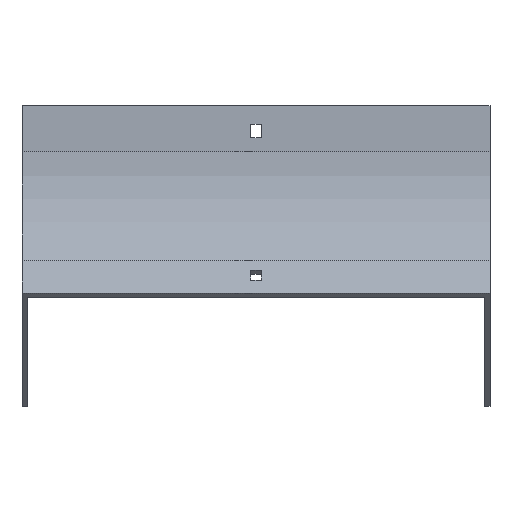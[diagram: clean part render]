
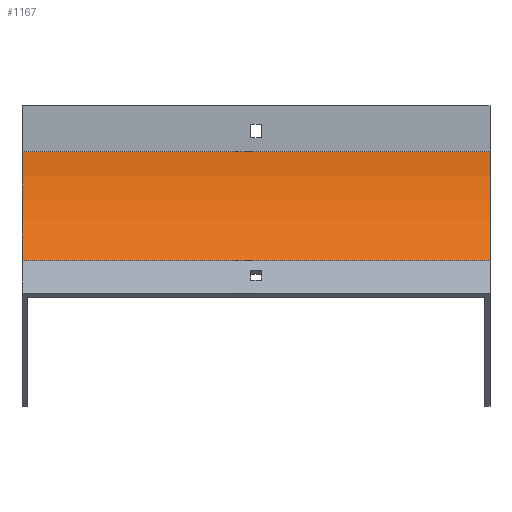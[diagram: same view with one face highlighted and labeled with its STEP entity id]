
A CAD part, front view. The second image highlights one B-rep face of the part: STEP entity #1167.
In plain terms, the highlighted cylindrical face has radius 100 mm (diameter 200 mm), a partial arc.
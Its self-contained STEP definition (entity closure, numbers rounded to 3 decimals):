
#28 = AXIS2_PLACEMENT_3D ( 'NONE', #516, #367, #1574 ) ;
#120 = LINE ( 'NONE', #721, #1086 ) ;
#227 = CARTESIAN_POINT ( 'NONE',  ( 152., -29.289, -100.711 ) ) ;
#357 = AXIS2_PLACEMENT_3D ( 'NONE', #1378, #1690, #1564 ) ;
#367 = DIRECTION ( 'NONE',  ( -1., 0., 0. ) ) ;
#435 = DIRECTION ( 'NONE',  ( -1., 0., 0. ) ) ;
#516 = CARTESIAN_POINT ( 'NONE',  ( 152., -100., -30. ) ) ;
#610 = FACE_OUTER_BOUND ( 'NONE', #755, .T. ) ;
#721 = CARTESIAN_POINT ( 'NONE',  ( 152., -29.289, -100.711 ) ) ;
#737 = CARTESIAN_POINT ( 'NONE',  ( -152., 0., -30. ) ) ;
#755 = EDGE_LOOP ( 'NONE', ( #855, #1660, #866, #1299 ) ) ;
#770 = CARTESIAN_POINT ( 'NONE',  ( 152., -100., -30. ) ) ;
#794 = CARTESIAN_POINT ( 'NONE',  ( 152., 0., -30. ) ) ;
#809 = CARTESIAN_POINT ( 'NONE',  ( -152., -29.289, -100.711 ) ) ;
#855 = ORIENTED_EDGE ( 'NONE', *, *, #1762, .T. ) ;
#866 = ORIENTED_EDGE ( 'NONE', *, *, #1277, .F. ) ;
#970 = AXIS2_PLACEMENT_3D ( 'NONE', #770, #435, #1189 ) ;
#1039 = CYLINDRICAL_SURFACE ( 'NONE', #970, 100. ) ;
#1085 = EDGE_CURVE ( 'NONE', #1269, #1204, #120, .T. ) ;
#1086 = VECTOR ( 'NONE', #1295, 1000. ) ;
#1090 = LINE ( 'NONE', #794, #1095 ) ;
#1095 = VECTOR ( 'NONE', #1247, 1000. ) ;
#1167 = ADVANCED_FACE ( 'NONE', ( #610 ), #1039, .F. ) ;
#1175 = CIRCLE ( 'NONE', #28, 100. ) ;
#1189 = DIRECTION ( 'NONE',  ( 0., 0., 1. ) ) ;
#1204 = VERTEX_POINT ( 'NONE', #809 ) ;
#1245 = CIRCLE ( 'NONE', #357, 100. ) ;
#1247 = DIRECTION ( 'NONE',  ( -1., 0., 0. ) ) ;
#1269 = VERTEX_POINT ( 'NONE', #227 ) ;
#1277 = EDGE_CURVE ( 'NONE', #1848, #1269, #1175, .T. ) ;
#1295 = DIRECTION ( 'NONE',  ( -1., 0., 0. ) ) ;
#1299 = ORIENTED_EDGE ( 'NONE', *, *, #1791, .T. ) ;
#1317 = VERTEX_POINT ( 'NONE', #737 ) ;
#1378 = CARTESIAN_POINT ( 'NONE',  ( -152., -100., -30. ) ) ;
#1564 = DIRECTION ( 'NONE',  ( 0., 0., 1. ) ) ;
#1574 = DIRECTION ( 'NONE',  ( 0., 0., 1. ) ) ;
#1660 = ORIENTED_EDGE ( 'NONE', *, *, #1085, .F. ) ;
#1690 = DIRECTION ( 'NONE',  ( -1., 0., 0. ) ) ;
#1762 = EDGE_CURVE ( 'NONE', #1317, #1204, #1245, .T. ) ;
#1779 = CARTESIAN_POINT ( 'NONE',  ( 152., 0., -30. ) ) ;
#1791 = EDGE_CURVE ( 'NONE', #1848, #1317, #1090, .T. ) ;
#1848 = VERTEX_POINT ( 'NONE', #1779 ) ;
